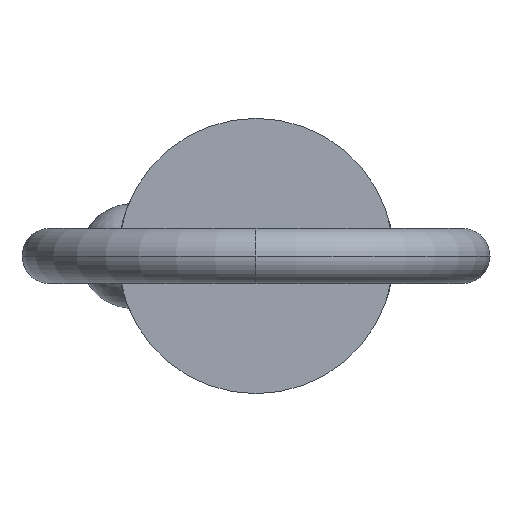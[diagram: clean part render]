
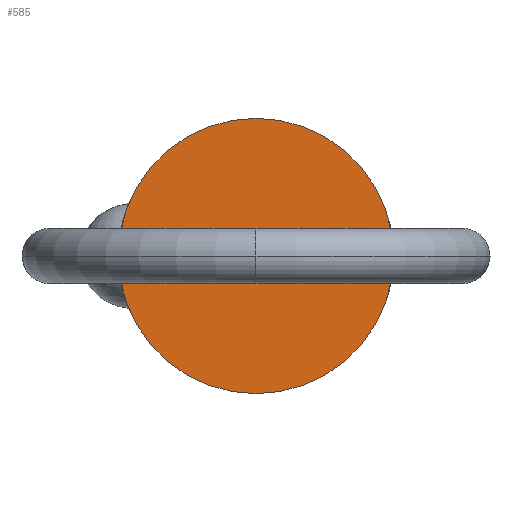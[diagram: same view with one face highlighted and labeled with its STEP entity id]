
A CAD part, left-side view. The second image highlights one B-rep face of the part: STEP entity #585.
In plain terms, the highlighted planar face has unit normal (-1, 0, 0).
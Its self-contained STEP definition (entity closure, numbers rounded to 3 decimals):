
#33 = AXIS2_PLACEMENT_3D ( 'NONE', #985, #769, #683 ) ;
#50 = AXIS2_PLACEMENT_3D ( 'NONE', #381, #614, #300 ) ;
#102 = EDGE_CURVE ( 'NONE', #555, #795, #797, .T. ) ;
#137 = PLANE ( 'NONE',  #33 ) ;
#138 = DIRECTION ( 'NONE',  ( 0., 0., -1. ) ) ;
#300 = DIRECTION ( 'NONE',  ( 0., 0., -1. ) ) ;
#335 = ORIENTED_EDGE ( 'NONE', *, *, #628, .F. ) ;
#381 = CARTESIAN_POINT ( 'NONE',  ( 0., 0., 0. ) ) ;
#464 = EDGE_LOOP ( 'NONE', ( #335, #938 ) ) ;
#555 = VERTEX_POINT ( 'NONE', #894 ) ;
#585 = ADVANCED_FACE ( 'NONE', ( #669 ), #137, .T. ) ;
#614 = DIRECTION ( 'NONE',  ( 1., 0., 0. ) ) ;
#628 = EDGE_CURVE ( 'NONE', #795, #555, #667, .T. ) ;
#667 = CIRCLE ( 'NONE', #50, 12.7 ) ;
#669 = FACE_OUTER_BOUND ( 'NONE', #464, .T. ) ;
#683 = DIRECTION ( 'NONE',  ( 0., 0., 1. ) ) ;
#769 = DIRECTION ( 'NONE',  ( -1., 0., 0. ) ) ;
#795 = VERTEX_POINT ( 'NONE', #967 ) ;
#797 = CIRCLE ( 'NONE', #841, 12.7 ) ;
#833 = CARTESIAN_POINT ( 'NONE',  ( 0., 0., 0. ) ) ;
#841 = AXIS2_PLACEMENT_3D ( 'NONE', #833, #899, #138 ) ;
#894 = CARTESIAN_POINT ( 'NONE',  ( 0., 0., 12.7 ) ) ;
#899 = DIRECTION ( 'NONE',  ( 1., 0., 0. ) ) ;
#938 = ORIENTED_EDGE ( 'NONE', *, *, #102, .F. ) ;
#967 = CARTESIAN_POINT ( 'NONE',  ( 0., 0., -12.7 ) ) ;
#985 = CARTESIAN_POINT ( 'NONE',  ( 0., 0., 0. ) ) ;
